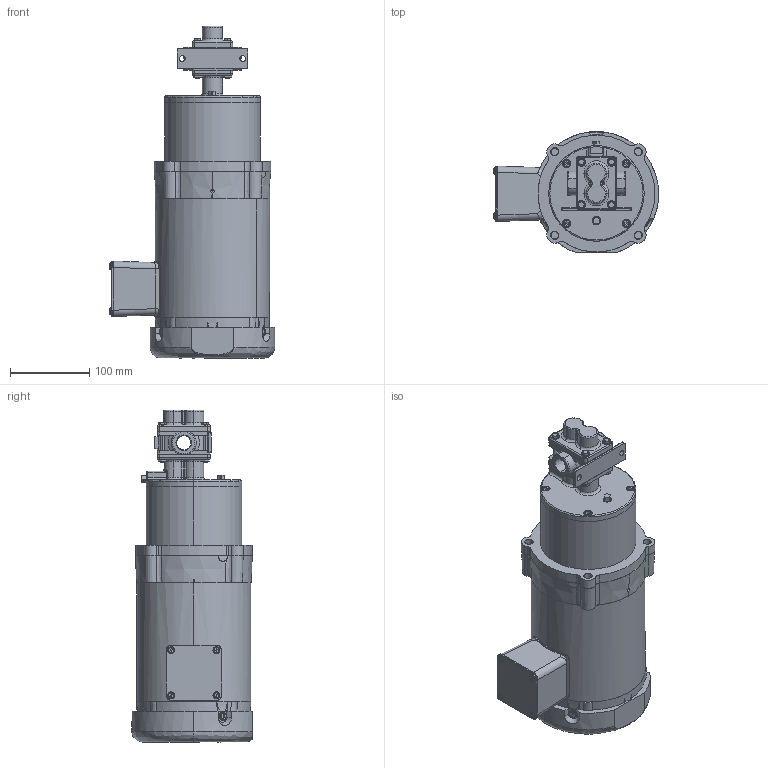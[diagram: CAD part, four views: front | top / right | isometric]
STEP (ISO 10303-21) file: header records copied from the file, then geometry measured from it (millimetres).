
FILE_DESCRIPTION (( 'STEP AP214' ), '1' );
FILE_NAME ('GMC4 FNPT 56C MOTOR.STEP', '2025-08-29T12:17:41', ( '' ), ( '' ), 'SwSTEP 2.0', 'SolidWorks 2024', '' );
FILE_SCHEMA (( 'AUTOMOTIVE_DESIGN' ));
Length unit declared in the file: inch
Products named in the file (1): GMC4 FNPT 56C MOTOR
Bounding box: 208.87 x 152.52 x 419.2 mm (x, y, z)
Volume: 4668763.9 mm3; surface area: 432826.1 mm2
Topology: 19 solids, 19 shells, 1534 faces, 3811 edges, 2379 vertices
Faces by surface type: plane 534, cylinder 480, cone 285, bspline 166, torus 55, sphere 14
Entity records: 63243 total; most frequent: CARTESIAN_POINT 27625, ORIENTED_EDGE 7578, DIRECTION 7158, EDGE_CURVE 3789, AXIS2_PLACEMENT_3D 2835, VERTEX_POINT 2379, EDGE_LOOP 1710, ADVANCED_FACE 1534
